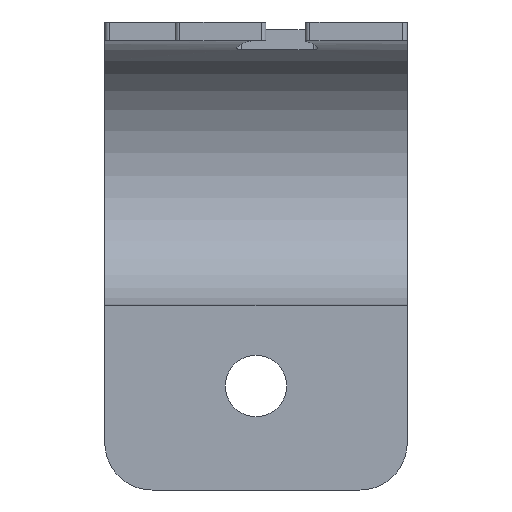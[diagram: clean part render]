
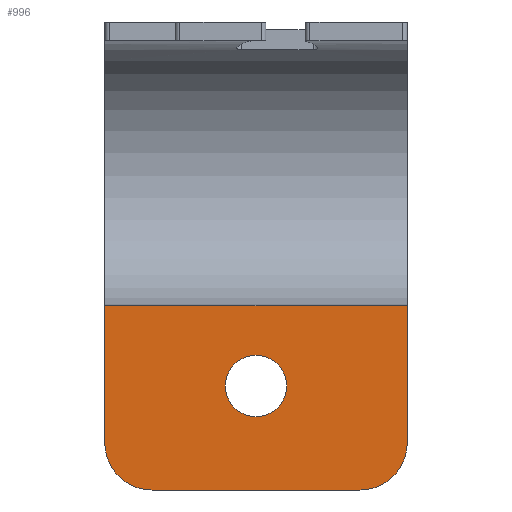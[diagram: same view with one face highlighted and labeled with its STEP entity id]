
A CAD part, front view. The second image highlights one B-rep face of the part: STEP entity #996.
In plain terms, the highlighted planar face has unit normal (0, -1, 0).
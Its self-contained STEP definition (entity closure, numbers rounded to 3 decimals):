
#5 = VERTEX_POINT ( 'NONE', #81 ) ;
#8 = VERTEX_POINT ( 'NONE', #550 ) ;
#33 = VERTEX_POINT ( 'NONE', #894 ) ;
#75 = DIRECTION ( 'NONE',  ( 0., 1., 0. ) ) ;
#81 = CARTESIAN_POINT ( 'NONE',  ( 16., 0., -14. ) ) ;
#94 = CARTESIAN_POINT ( 'NONE',  ( -16., 0., -14. ) ) ;
#95 = ORIENTED_EDGE ( 'NONE', *, *, #674, .T. ) ;
#96 = AXIS2_PLACEMENT_3D ( 'NONE', #770, #379, #298 ) ;
#117 = CARTESIAN_POINT ( 'NONE',  ( 0., 0., -25.75 ) ) ;
#122 = VECTOR ( 'NONE', #563, 1000. ) ;
#123 = EDGE_CURVE ( 'NONE', #933, #8, #1001, .T. ) ;
#129 = VECTOR ( 'NONE', #826, 1000. ) ;
#135 = VERTEX_POINT ( 'NONE', #884 ) ;
#176 = LINE ( 'NONE', #94, #122 ) ;
#177 = CARTESIAN_POINT ( 'NONE',  ( 16., 0., -33.5 ) ) ;
#218 = FACE_BOUND ( 'NONE', #559, .T. ) ;
#224 = CARTESIAN_POINT ( 'NONE',  ( 16., 0., -28.5 ) ) ;
#268 = VERTEX_POINT ( 'NONE', #117 ) ;
#271 = CARTESIAN_POINT ( 'NONE',  ( 16., 0., -14. ) ) ;
#285 = DIRECTION ( 'NONE',  ( 0., -1., 0. ) ) ;
#286 = CARTESIAN_POINT ( 'NONE',  ( 0., 0., -22.5 ) ) ;
#293 = CARTESIAN_POINT ( 'NONE',  ( 11., 0., -33.5 ) ) ;
#298 = DIRECTION ( 'NONE',  ( 0., 0., 1. ) ) ;
#304 = EDGE_CURVE ( 'NONE', #5, #641, #548, .T. ) ;
#306 = DIRECTION ( 'NONE',  ( 0., 0., 1. ) ) ;
#310 = AXIS2_PLACEMENT_3D ( 'NONE', #543, #75, #306 ) ;
#311 = FACE_OUTER_BOUND ( 'NONE', #365, .T. ) ;
#312 = EDGE_CURVE ( 'NONE', #135, #268, #455, .T. ) ;
#362 = AXIS2_PLACEMENT_3D ( 'NONE', #803, #496, #482 ) ;
#365 = EDGE_LOOP ( 'NONE', ( #601, #647, #396, #439, #685, #95 ) ) ;
#379 = DIRECTION ( 'NONE',  ( 0., 1., 0. ) ) ;
#392 = ORIENTED_EDGE ( 'NONE', *, *, #312, .T. ) ;
#394 = DIRECTION ( 'NONE',  ( 0., 0., 1. ) ) ;
#396 = ORIENTED_EDGE ( 'NONE', *, *, #807, .F. ) ;
#401 = CIRCLE ( 'NONE', #362, 5. ) ;
#439 = ORIENTED_EDGE ( 'NONE', *, *, #304, .T. ) ;
#455 = CIRCLE ( 'NONE', #957, 3.25 ) ;
#482 = DIRECTION ( 'NONE',  ( 0., 0., 1. ) ) ;
#496 = DIRECTION ( 'NONE',  ( 0., -1., 0. ) ) ;
#502 = LINE ( 'NONE', #829, #527 ) ;
#527 = VECTOR ( 'NONE', #910, 1000. ) ;
#543 = CARTESIAN_POINT ( 'NONE',  ( 16., 0., -14. ) ) ;
#548 = LINE ( 'NONE', #271, #129 ) ;
#550 = CARTESIAN_POINT ( 'NONE',  ( -11., 0., -33.5 ) ) ;
#559 = EDGE_LOOP ( 'NONE', ( #392, #864 ) ) ;
#563 = DIRECTION ( 'NONE',  ( 0., 0., -1. ) ) ;
#595 = DIRECTION ( 'NONE',  ( 0., 0., 1. ) ) ;
#601 = ORIENTED_EDGE ( 'NONE', *, *, #123, .F. ) ;
#608 = CIRCLE ( 'NONE', #729, 5. ) ;
#620 = EDGE_CURVE ( 'NONE', #641, #33, #176, .T. ) ;
#641 = VERTEX_POINT ( 'NONE', #720 ) ;
#642 = DIRECTION ( 'NONE',  ( -1., 0., 0. ) ) ;
#647 = ORIENTED_EDGE ( 'NONE', *, *, #967, .T. ) ;
#674 = EDGE_CURVE ( 'NONE', #33, #8, #401, .T. ) ;
#685 = ORIENTED_EDGE ( 'NONE', *, *, #620, .T. ) ;
#720 = CARTESIAN_POINT ( 'NONE',  ( -16., 0., -14. ) ) ;
#729 = AXIS2_PLACEMENT_3D ( 'NONE', #838, #285, #394 ) ;
#751 = DIRECTION ( 'NONE',  ( 0., 1., 0. ) ) ;
#770 = CARTESIAN_POINT ( 'NONE',  ( 0., 0., -22.5 ) ) ;
#803 = CARTESIAN_POINT ( 'NONE',  ( -11., 0., -28.5 ) ) ;
#807 = EDGE_CURVE ( 'NONE', #5, #920, #502, .T. ) ;
#826 = DIRECTION ( 'NONE',  ( -1., 0., 0. ) ) ;
#829 = CARTESIAN_POINT ( 'NONE',  ( 16., 0., -14. ) ) ;
#838 = CARTESIAN_POINT ( 'NONE',  ( 11., 0., -28.5 ) ) ;
#858 = EDGE_CURVE ( 'NONE', #268, #135, #936, .T. ) ;
#864 = ORIENTED_EDGE ( 'NONE', *, *, #858, .T. ) ;
#884 = CARTESIAN_POINT ( 'NONE',  ( 0., 0., -19.25 ) ) ;
#894 = CARTESIAN_POINT ( 'NONE',  ( -16., 0., -28.5 ) ) ;
#909 = VECTOR ( 'NONE', #642, 1000. ) ;
#910 = DIRECTION ( 'NONE',  ( 0., 0., -1. ) ) ;
#920 = VERTEX_POINT ( 'NONE', #224 ) ;
#933 = VERTEX_POINT ( 'NONE', #293 ) ;
#936 = CIRCLE ( 'NONE', #96, 3.25 ) ;
#957 = AXIS2_PLACEMENT_3D ( 'NONE', #286, #751, #595 ) ;
#967 = EDGE_CURVE ( 'NONE', #933, #920, #608, .T. ) ;
#996 = ADVANCED_FACE ( 'NONE', ( #218, #311 ), #1038, .F. ) ;
#1001 = LINE ( 'NONE', #177, #909 ) ;
#1038 = PLANE ( 'NONE',  #310 ) ;
